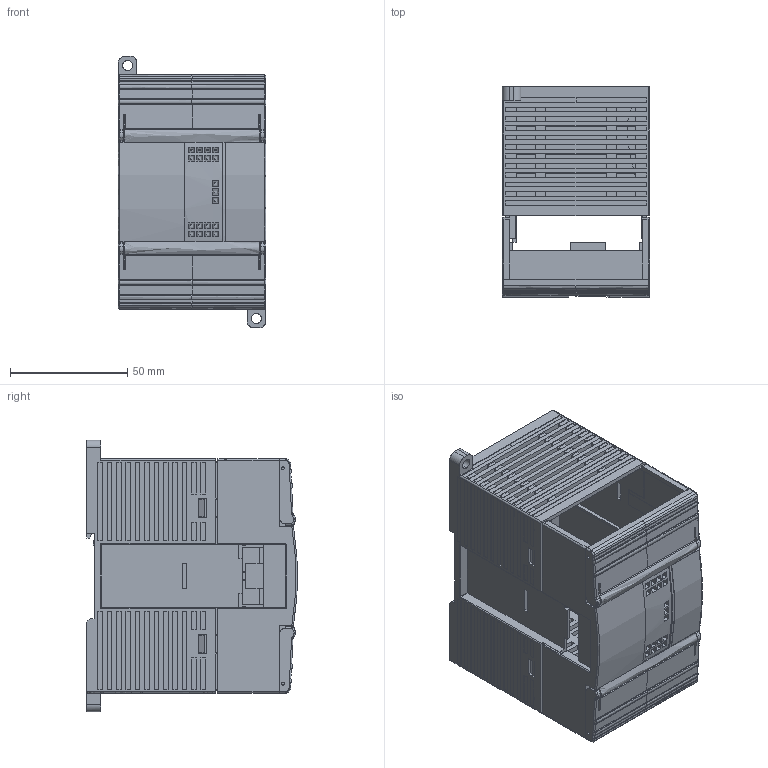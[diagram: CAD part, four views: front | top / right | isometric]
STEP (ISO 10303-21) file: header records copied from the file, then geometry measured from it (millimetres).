
FILE_DESCRIPTION(('STEP AP242'), '1');
FILE_NAME('XD-E16X', '2025-03-26T17:22:19', (''), ('PROMPOWER'), 'C3D Converter', 'C3D Toolkit', '');
FILE_SCHEMA(('AP242_MANAGED_MODEL_BASED_3D_ENGINEERING_MIM_LF { 1 0 10303 442 1 1 4 }'));
Length unit declared in the file: millimetre
Products named in the file (1): PMP-E16X PROMPOWER
Bounding box: 63.05 x 89.81 x 116 mm (x, y, z)
Volume: 1908.7 mm3; surface area: 97374.1 mm2
Topology: 1 solids, 7 shells, 1676 faces, 4810 edges, 3139 vertices
Faces by surface type: plane 1257, bspline 419
Entity records: 102977 total; most frequent: CARTESIAN_POINT 50533, ORIENTED_EDGE 9426, DIRECTION 5757, EDGE_CURVE 4733, LINE 3241, VECTOR 3241, VERTEX_POINT 3119, FACE_BOUND 1921
